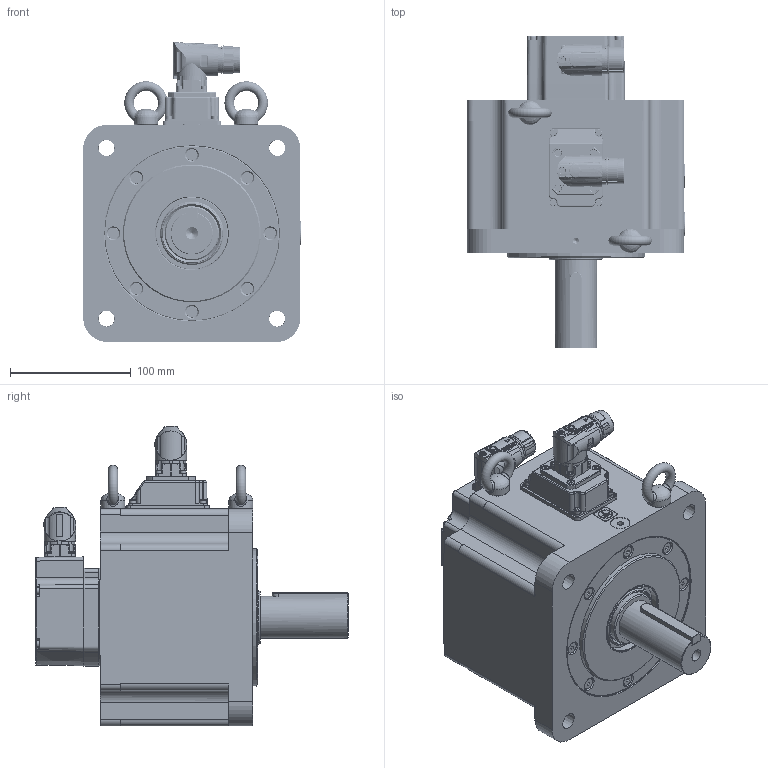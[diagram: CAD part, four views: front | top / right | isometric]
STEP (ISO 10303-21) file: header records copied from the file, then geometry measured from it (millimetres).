
FILE_DESCRIPTION( ( 'Unknown' ), '1' );
FILE_NAME( 'U:/05_Progetto TCE/010-TCE motor drawings/TCE180/vuoti/TCE180 6A XX 3 A1 0 C2.stp', 'Unknown', ( 'Unknown' ), ( 'Unknown' ), 'PSStep 17.0.49', 'Unknown', ' ' );
FILE_SCHEMA( ( 'AUTOMOTIVE_DESIGN { 1 0 10303 214 1 1 1 1 }' ) );
Length unit declared in the file: millimetre
Products named in the file (15): 1; 2; 3; 4; 5; 6; 7; 8; 9; 10; 11; 12; 13; 14; 005204000001
Bounding box: 180.3 x 259 x 248.5 mm (x, y, z)
Volume: 2348254.8 mm3; surface area: 489937.2 mm2
Topology: 15 solids, 108 shells, 3261 faces, 8133 edges, 5256 vertices
Faces by surface type: plane 1549, cylinder 746, cone 361, bspline 274, torus 198, sphere 93, extrusion 38, revolution 2
Full cylindrical faces by diameter (mm): 0.5 x1, 1 x21, 1.2 x17, 1.4 x4, 2 x4, 2.013 x4, 2.2 x2, 2.459 x23, 2.5 x8, 2.6 x4, 2.8 x4, 3 x29, 3.2 x1, 3.242 x6, 3.5 x8, 4 x9, 4.134 x24, 4.4 x12, 4.5 x6, 4.7 x4, 4.917 x2, 5 x4, 5.5 x12, 5.8 x1, 5.9 x2, 6.647 x22, 6.8 x1, 7 x4, 8 x8, 8.5 x4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
Entity records: 142909 total; most frequent: CARTESIAN_POINT 47459, DIRECTION 14323, ORIENTED_EDGE 13840, EDGE_CURVE 6920, AXIS2_PLACEMENT_3D 5439, VERTEX_POINT 4921, EDGE_LOOP 4350, FACE_OUTER_BOUND 3757
